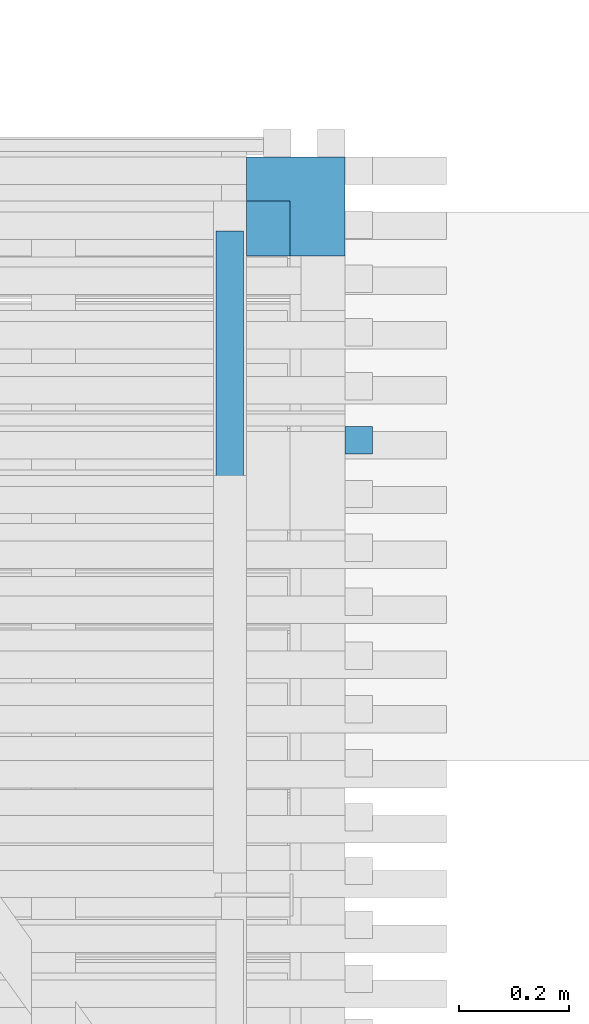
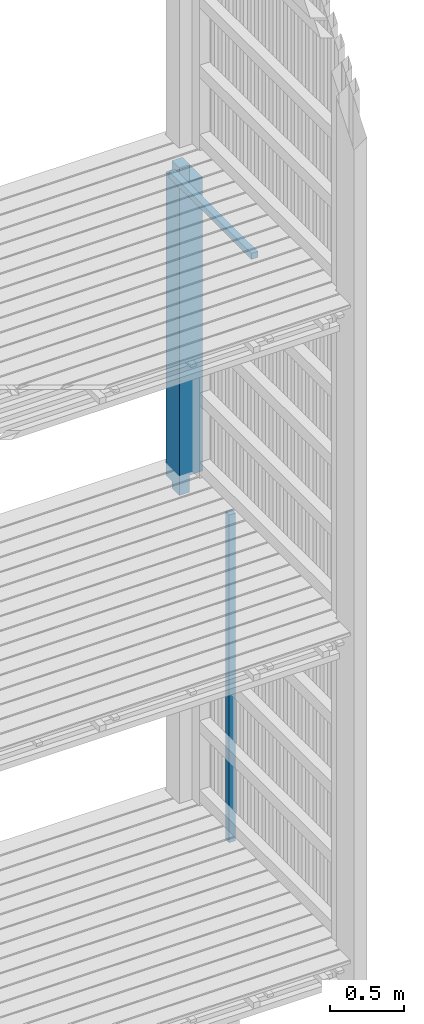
# One storey, part 134 of 182: 3 beams.
"""IFC2X3 building model written with IfcOpenShell, lengths in metres."""

from ifc_helpers import new_model, si_unit, frame, origin, place, context, project, spatial, faceted_brep, element, save


model = new_model("IFC2X3")

# Units and contexts
model_context = context("Model", 3, precision=1e-06, world=origin())
ifc_project = project(units=[si_unit("LENGTHUNIT", "METRE"), si_unit("PLANEANGLEUNIT", "RADIAN")], contexts=[model_context])

# Site, building, storey
site = spatial("IfcSite", under=ifc_project, CompositionType="ELEMENT")
building = spatial("IfcBuilding", under=site, CompositionType="ELEMENT")
storey = spatial("IfcBuildingStorey", under=building, Name="vs", CompositionType="ELEMENT", Elevation=-0.85)

# Beams
placement = place(None, origin())
beam_1_placement = place(placement, frame((56.26499999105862, 7.180077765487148, 5.279999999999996), z_axis=(0.0, -1.0, 0.0), x_axis=(0.0, 0.0, 1.0)))
element("IfcBeam", 1, at=beam_1_placement, inside=storey, Name="Poteau", context=model_context, shape_type="Brep", body=[
    faceted_brep([(0.139999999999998, -0.09, 0.089999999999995), (0.139999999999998, 0.009999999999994, 0.089999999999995), (0.139999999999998, 0.009999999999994, -0.090000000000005), (0.139999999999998, -0.09, -0.090000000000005), (0.059999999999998, 0.090000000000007, -0.010000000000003), (0.059999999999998, 0.009999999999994, -0.009999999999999), (-1e-15, 0.009999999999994, -0.009999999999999), (-1e-15, 0.090000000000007, -0.009999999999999), (-1e-15, 0.090000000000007, 0.089999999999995), (-1e-15, 0.090000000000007, -0.009999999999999), (-1e-15, 0.009999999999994, -0.009999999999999), (-1e-15, 0.009999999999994, 0.089999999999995), (0.139999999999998, 0.009999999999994, -0.090000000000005), (0.139999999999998, 0.009999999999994, 0.089999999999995), (-1e-15, 0.009999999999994, 0.089999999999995), (-1e-15, 0.009999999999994, -0.009999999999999), (0.059999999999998, 0.009999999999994, -0.009999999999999), (0.059999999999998, 0.009999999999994, -0.090000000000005), (0.059999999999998, 0.009999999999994, -0.090000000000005), (0.059999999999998, 0.009999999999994, -0.009999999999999), (0.059999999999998, 0.090000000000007, -0.010000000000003), (0.059999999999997, 0.090000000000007, -0.090000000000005), (0.139999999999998, -0.09, -0.090000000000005), (0.139999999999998, 0.009999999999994, -0.090000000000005), (0.059999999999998, 0.009999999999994, -0.090000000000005), (0.059999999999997, 0.090000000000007, -0.090000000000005), (2.559999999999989, 0.090000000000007, -0.090000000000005), (2.559999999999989, -0.09, -0.090000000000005), (2.559999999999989, -0.09, 0.089999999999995), (0.139999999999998, -0.09, 0.089999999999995), (0.139999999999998, -0.09, -0.090000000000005), (2.559999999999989, -0.09, -0.090000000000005), (2.559999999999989, 0.090000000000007, -0.010000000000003), (2.559999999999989, 0.090000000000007, -0.090000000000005), (0.059999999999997, 0.090000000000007, -0.090000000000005), (0.059999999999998, 0.090000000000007, -0.010000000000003), (-1e-15, 0.090000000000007, -0.009999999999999), (-1e-15, 0.090000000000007, 0.089999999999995), (2.69999999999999, 0.090000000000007, 0.089999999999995), (2.69999999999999, 0.090000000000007, -0.009999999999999), (2.69999999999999, 0.009999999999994, 0.089999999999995), (2.69999999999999, 0.090000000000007, 0.089999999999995), (-1e-15, 0.090000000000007, 0.089999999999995), (-1e-15, 0.009999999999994, 0.089999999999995), (0.139999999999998, 0.009999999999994, 0.089999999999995), (0.139999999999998, -0.09, 0.089999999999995), (2.559999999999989, -0.09, 0.089999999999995), (2.559999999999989, 0.009999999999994, 0.089999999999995), (2.559999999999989, 0.090000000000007, -0.010000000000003), (2.69999999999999, 0.090000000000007, -0.009999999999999), (2.69999999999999, 0.009999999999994, -0.010000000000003), (2.559999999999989, 0.009999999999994, -0.010000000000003), (2.559999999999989, 0.009999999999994, 0.089999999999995), (2.559999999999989, -0.09, 0.089999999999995), (2.559999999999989, -0.09, -0.090000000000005), (2.559999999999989, 0.090000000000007, -0.090000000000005), (2.559999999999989, 0.090000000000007, -0.010000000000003), (2.559999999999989, 0.009999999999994, -0.010000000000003), (2.69999999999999, 0.009999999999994, 0.089999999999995), (2.559999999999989, 0.009999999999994, 0.089999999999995), (2.559999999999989, 0.009999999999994, -0.010000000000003), (2.69999999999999, 0.009999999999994, -0.010000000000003), (2.69999999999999, 0.090000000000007, 0.089999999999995), (2.69999999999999, 0.009999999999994, 0.089999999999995), (2.69999999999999, 0.009999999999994, -0.010000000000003), (2.69999999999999, 0.090000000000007, -0.009999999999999)], [[[0, 1, 2, 3]], [[4, 5, 6, 7]], [[8, 9, 10, 11]], [[12, 13, 14, 15, 16, 17]], [[18, 19, 20, 21]], [[22, 23, 24, 25, 26, 27]], [[28, 29, 30, 31]], [[32, 33, 34, 35, 36, 37, 38, 39]], [[40, 41, 42, 43, 44, 45, 46, 47]], [[48, 49, 50, 51]], [[52, 53, 54, 55, 56, 57]], [[58, 59, 60, 61]], [[62, 63, 64, 65]]]),
])
beam_2_placement = place(placement, frame((56.14499999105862, 7.135077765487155, 7.91739999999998), z_axis=(0.0, 0.0, 1.0), x_axis=(0.0, -1.0, 0.0)))
element("IfcBeam", 2, at=beam_2_placement, inside=storey, Name="Calage", context=model_context, shape_type="Brep", body=[
    faceted_brep([(0.0, 0.025000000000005, -0.025), (0.0, -0.024999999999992, -0.025), (0.0, -0.024999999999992, 0.024999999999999), (0.0, 0.025000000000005, 0.024999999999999), (1.115000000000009, -0.024999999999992, 0.024999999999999), (1.115000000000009, -0.024999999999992, -0.025), (1.115000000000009, 0.025000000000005, -0.025), (1.115000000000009, 0.025000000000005, 0.024999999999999), (0.0, -0.024999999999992, 0.024999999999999), (0.0, -0.024999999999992, -0.025), (1.115000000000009, -0.024999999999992, -0.025), (1.115000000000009, -0.024999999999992, 0.024999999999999), (1.115000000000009, -0.024999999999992, -0.025), (0.0, -0.024999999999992, -0.025), (0.0, 0.025000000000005, -0.025), (1.115000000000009, 0.025000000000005, -0.025), (1.115000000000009, 0.025000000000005, -0.025), (0.0, 0.025000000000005, -0.025), (0.0, 0.025000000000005, 0.024999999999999), (1.115000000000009, 0.025000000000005, 0.024999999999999), (1.115000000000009, 0.025000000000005, 0.024999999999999), (0.0, 0.025000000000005, 0.024999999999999), (0.0, -0.024999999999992, 0.024999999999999), (1.115000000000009, -0.024999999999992, 0.024999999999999)], [[[0, 1, 2, 3]], [[4, 5, 6, 7]], [[8, 9, 10, 11]], [[12, 13, 14, 15]], [[16, 17, 18, 19]], [[20, 21, 22, 23]]]),
])
beam_3_placement = place(placement, frame((56.37999999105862, 6.754168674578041, 2.575000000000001), z_axis=(-1.0, 0.0, 0.0), x_axis=(0.0, 0.0, 1.0)))
element("IfcBeam", 3, at=beam_3_placement, inside=storey, Name="Bardage", context=model_context, shape_type="Brep", body=[
    faceted_brep([(0.0, -0.024999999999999, 0.024999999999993), (0.0, 0.024999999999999, 0.024999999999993), (0.0, 0.024999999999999, -0.025000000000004), (0.0, -0.024999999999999, -0.025000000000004), (2.699961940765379, 0.024999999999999, -0.025000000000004), (2.699961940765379, 0.024999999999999, 0.024999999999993), (2.699961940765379, -0.024999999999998, 0.024999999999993), (2.699961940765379, -0.024999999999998, -0.025000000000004), (0.0, -0.024999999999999, -0.025000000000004), (0.0, 0.024999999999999, -0.025000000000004), (2.699961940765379, 0.024999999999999, -0.025000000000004), (2.699961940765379, -0.024999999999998, -0.025000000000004), (2.699961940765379, 0.024999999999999, -0.025000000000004), (0.0, 0.024999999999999, -0.025000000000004), (0.0, 0.024999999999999, 0.024999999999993), (2.699961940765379, 0.024999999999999, 0.024999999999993), (2.699961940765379, 0.024999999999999, 0.024999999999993), (0.0, 0.024999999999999, 0.024999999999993), (0.0, -0.024999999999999, 0.024999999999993), (2.699961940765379, -0.024999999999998, 0.024999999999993), (2.699961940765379, -0.024999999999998, 0.024999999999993), (0.0, -0.024999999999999, 0.024999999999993), (0.0, -0.024999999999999, -0.025000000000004), (2.699961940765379, -0.024999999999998, -0.025000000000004)], [[[0, 1, 2, 3]], [[4, 5, 6, 7]], [[8, 9, 10, 11]], [[12, 13, 14, 15]], [[16, 17, 18, 19]], [[20, 21, 22, 23]]]),
])

save(model, "model.ifc")
